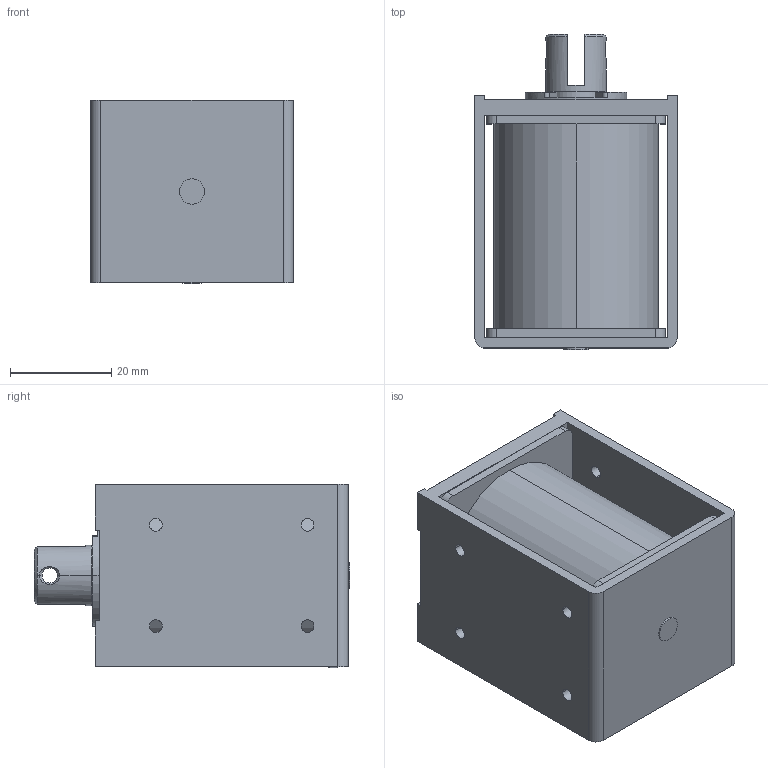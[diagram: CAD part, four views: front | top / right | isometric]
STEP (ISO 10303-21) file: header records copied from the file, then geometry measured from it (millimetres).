
FILE_DESCRIPTION (( 'STEP AP203' ), '1' );
FILE_NAME ('w_ca1250.STEP', '2014-07-14T02:39:16', ( 'jiba' ), ( 'Hewlett-Packard Company' ), 'SwSTEP 2.0', 'SolidWorks 2014', '' );
FILE_SCHEMA (( 'CONFIG_CONTROL_DESIGN' ));
Length unit declared in the file: millimetre
Products named in the file (3): Part26^w_ca1250; Part1^w_ca1250_pl; w_ca1250
Assembly tree (2 placements, depth 2):
  w_ca1250
    Part26^w_ca1250
    Part1^w_ca1250_pl
Bounding box: 40 x 62.3 x 36.2 mm (x, y, z)
Volume: 52770.8 mm3; surface area: 21254.1 mm2
Topology: 2 solids, 2 shells, 129 faces, 352 edges, 227 vertices
Faces by surface type: cylinder 61, plane 61, cone 7
Entity records: 4566 total; most frequent: CARTESIAN_POINT 817, DIRECTION 763, ORIENTED_EDGE 704, EDGE_CURVE 352, AXIS2_PLACEMENT_3D 285, VERTEX_POINT 227, VECTOR 193, LINE 193
